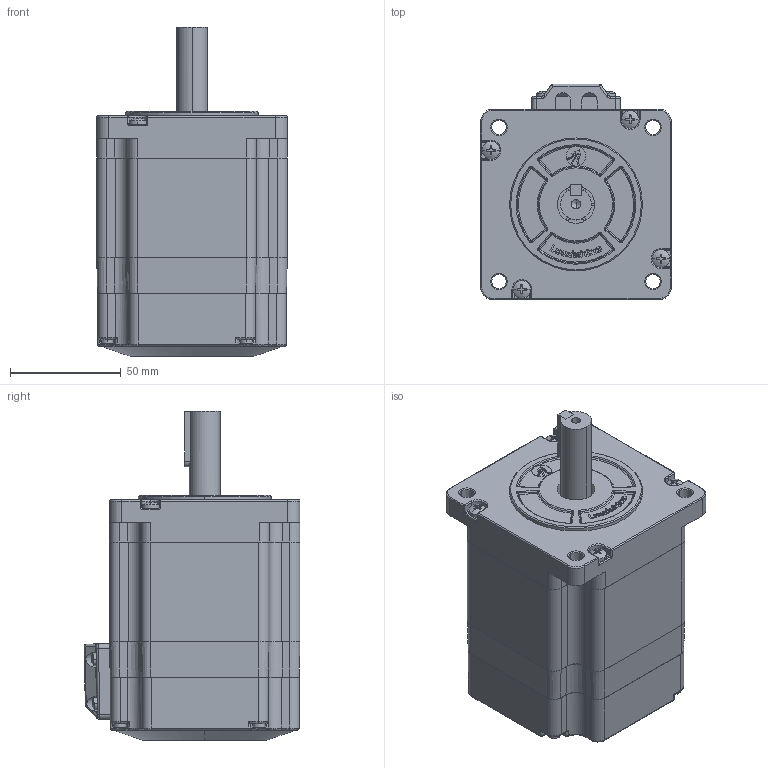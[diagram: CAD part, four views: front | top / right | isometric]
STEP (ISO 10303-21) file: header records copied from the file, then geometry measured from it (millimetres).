
FILE_DESCRIPTION (( 'STEP AP203' ), '1' );
FILE_NAME ('CS-M23445_3D.STEP', '2019-12-20T14:00:23', ( 'hwtest' ), ( 'Microsoft' ), 'SwSTEP 2.0', 'SolidWorks 2014', '' );
FILE_SCHEMA (( 'CONFIG_CONTROL_DESIGN' ));
Length unit declared in the file: millimetre
Products named in the file (1): CS-M23445_3D
Bounding box: 86 x 97.46 x 148.7 mm (x, y, z)
Volume: 429743.7 mm3; surface area: 144368.8 mm2
Topology: 30 solids, 30 shells, 1700 faces, 4503 edges, 2902 vertices
Faces by surface type: plane 715, cylinder 629, bspline 256, sphere 60, cone 40
Entity records: 62099 total; most frequent: CARTESIAN_POINT 21014, ORIENTED_EDGE 8936, DIRECTION 8119, EDGE_CURVE 4468, AXIS2_PLACEMENT_3D 2905, VERTEX_POINT 2893, LINE 2309, VECTOR 2309
